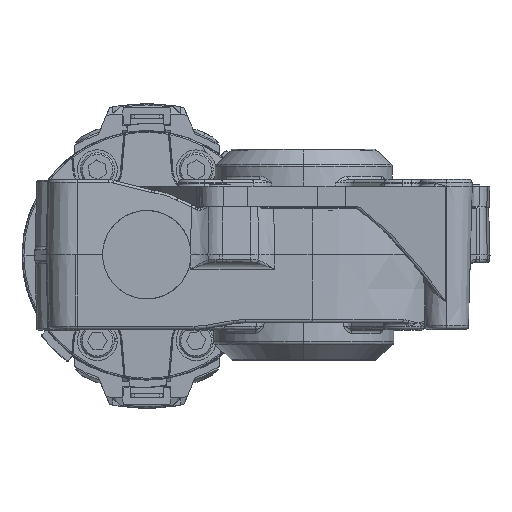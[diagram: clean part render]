
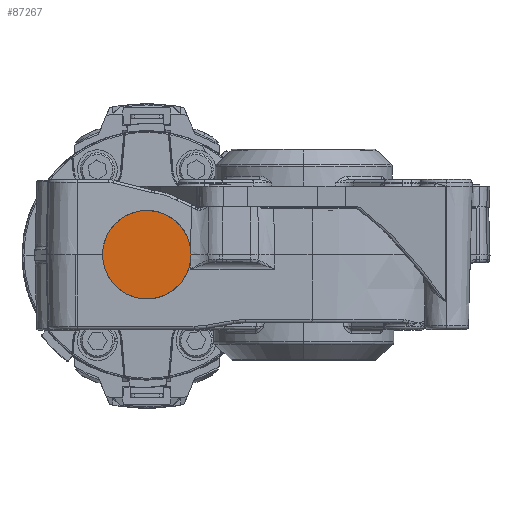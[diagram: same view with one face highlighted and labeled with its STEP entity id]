
A CAD part, top view. The second image highlights one B-rep face of the part: STEP entity #87267.
In plain terms, the highlighted planar face has unit normal (0, 0, 1).
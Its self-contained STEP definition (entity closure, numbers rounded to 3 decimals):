
#3439 = CARTESIAN_POINT ( 'NONE',  ( 52.214, 56.107, 313.063 ) ) ;
#5453 = VERTEX_POINT ( 'NONE', #25819 ) ;
#17676 = EDGE_LOOP ( 'NONE', ( #103999, #165899 ) ) ;
#25819 = CARTESIAN_POINT ( 'NONE',  ( 39.301, 54.609, 313.063 ) ) ;
#32067 = CIRCLE ( 'NONE', #45518, 13. ) ;
#35056 = CARTESIAN_POINT ( 'NONE',  ( 52.214, 56.107, 313.063 ) ) ;
#39931 = AXIS2_PLACEMENT_3D ( 'NONE', #3439, #118860, #134095 ) ;
#45518 = AXIS2_PLACEMENT_3D ( 'NONE', #35056, #59680, #71552 ) ;
#48721 = CARTESIAN_POINT ( 'NONE',  ( 65.127, 57.605, 313.063 ) ) ;
#59680 = DIRECTION ( 'NONE',  ( 0., 0., -1. ) ) ;
#65218 = CARTESIAN_POINT ( 'NONE',  ( 52.214, 56.107, 313.063 ) ) ;
#71552 = DIRECTION ( 'NONE',  ( -0.993, -0.115, 0. ) ) ;
#81081 = AXIS2_PLACEMENT_3D ( 'NONE', #65218, #104234, #143326 ) ;
#87267 = ADVANCED_FACE ( 'NONE', ( #144373 ), #146821, .F. ) ;
#100151 = VERTEX_POINT ( 'NONE', #48721 ) ;
#103999 = ORIENTED_EDGE ( 'NONE', *, *, #112733, .F. ) ;
#104234 = DIRECTION ( 'NONE',  ( 0., 0., -1. ) ) ;
#112733 = EDGE_CURVE ( 'NONE', #100151, #5453, #32067, .T. ) ;
#118860 = DIRECTION ( 'NONE',  ( 0., 0., -1. ) ) ;
#134095 = DIRECTION ( 'NONE',  ( -0.993, -0.115, 0. ) ) ;
#135776 = EDGE_CURVE ( 'NONE', #5453, #100151, #162447, .T. ) ;
#143326 = DIRECTION ( 'NONE',  ( -0.993, -0.115, 0. ) ) ;
#144373 = FACE_OUTER_BOUND ( 'NONE', #17676, .T. ) ;
#146821 = PLANE ( 'NONE',  #39931 ) ;
#162447 = CIRCLE ( 'NONE', #81081, 13. ) ;
#165899 = ORIENTED_EDGE ( 'NONE', *, *, #135776, .F. ) ;
